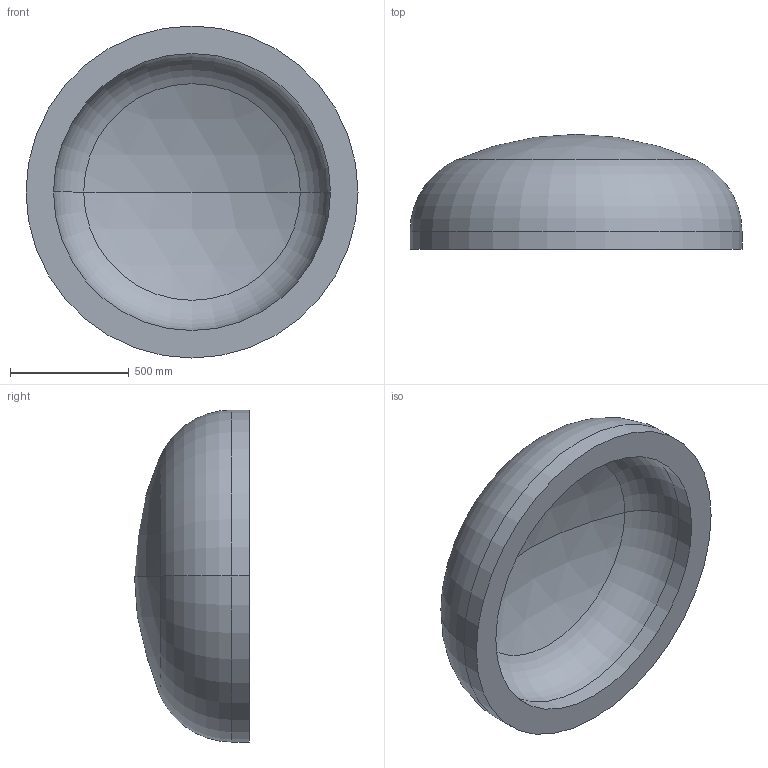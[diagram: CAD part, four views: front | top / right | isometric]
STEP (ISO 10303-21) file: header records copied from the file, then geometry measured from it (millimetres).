
FILE_DESCRIPTION (( 'STEP AP203' ), '1' );
FILE_NAME ('DIN 28013 Korbbogenform_-_Boden DIN 28013 - 1400 x 75 - I - s=116.step', '2016-07-01T10:31:50', ( '' ), ( '' ), 'SwSTEP 2.0', 'SolidWorks 2013', '' );
FILE_SCHEMA (( 'CONFIG_CONTROL_DESIGN' ));
Length unit declared in the file: millimetre
Products named in the file (1): DIN 28013 Korbbogenform_-_Boden DIN 28013 - 1400 x 75 - I - s=116
Bounding box: 1400 x 484.64 x 1400 mm (x, y, z)
Volume: 257898662.5 mm3; surface area: 4942631.3 mm2
Topology: 1 solids, 1 shells, 13 faces, 24 edges, 14 vertices
Faces by surface type: torus 4, cylinder 4, sphere 4, plane 1
Entity records: 407 total; most frequent: DIRECTION 72, CARTESIAN_POINT 52, ORIENTED_EDGE 48, AXIS2_PLACEMENT_3D 34, EDGE_CURVE 24, CIRCLE 20, EDGE_LOOP 14, VERTEX_POINT 14
